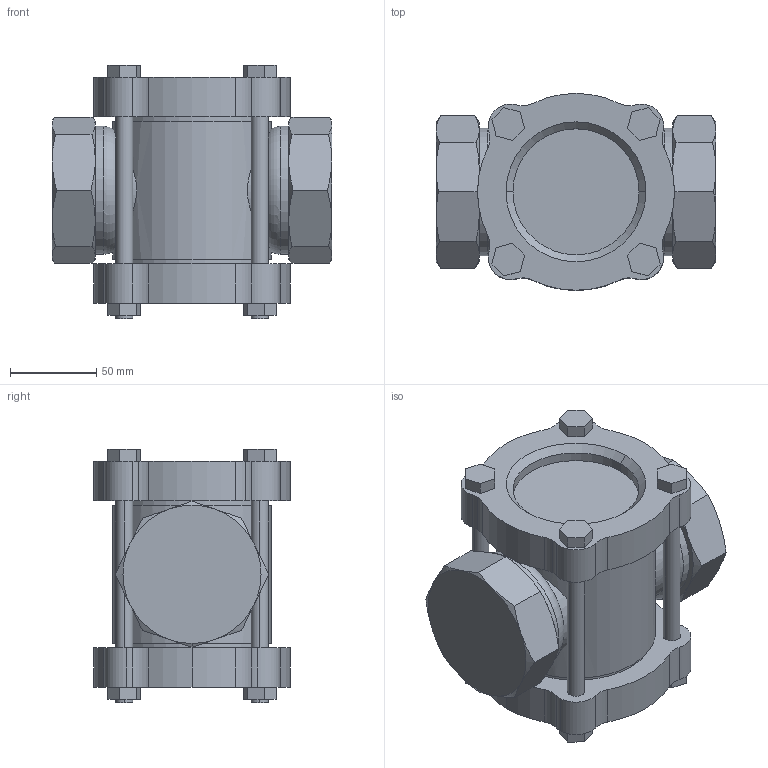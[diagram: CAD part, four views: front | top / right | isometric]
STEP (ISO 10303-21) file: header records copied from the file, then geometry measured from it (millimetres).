
FILE_DESCRIPTION (( 'STEP AP203' ), '1' );
FILE_NAME ('SF-1S 50A.STEP', '2024-09-06T02:37:15', ( '' ), ( '' ), 'SwSTEP 2.0', 'SolidWorks 2024', '' );
FILE_SCHEMA (( 'CONFIG_CONTROL_DESIGN' ));
Length unit declared in the file: millimetre
Products named in the file (1): SF-1S 50A
Bounding box: 162 x 114 x 147 mm (x, y, z)
Volume: 1400134.1 mm3; surface area: 117576.5 mm2
Topology: 1 solids, 1 shells, 208 faces, 510 edges, 324 vertices
Faces by surface type: plane 88, cylinder 76, cone 40, torus 4
Entity records: 6739 total; most frequent: CARTESIAN_POINT 1719, DIRECTION 1044, ORIENTED_EDGE 1020, EDGE_CURVE 510, AXIS2_PLACEMENT_3D 401, VERTEX_POINT 324, VECTOR 242, LINE 242
